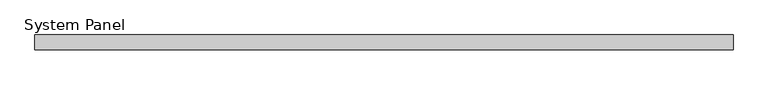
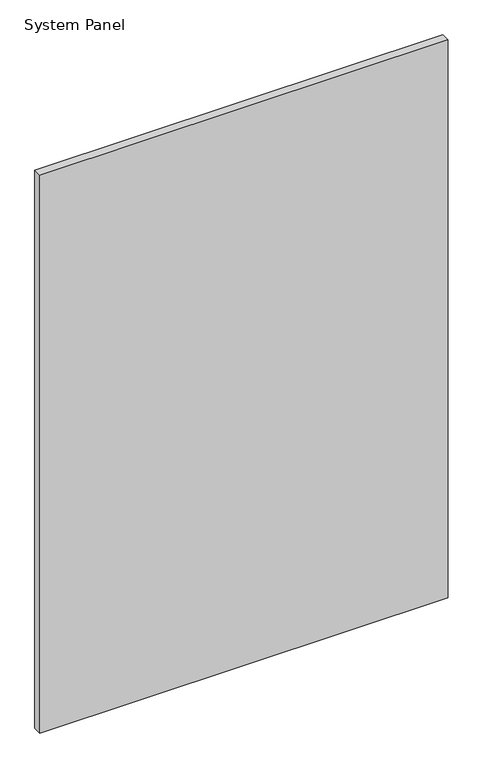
"""IFC4 building model written with IfcOpenShell, lengths in millimetres: plate geometry, System Panel : Panel_Glazed_Generic Showcase_30mm."""

import ifcopenshell
import ifcopenshell.guid

model = None  # the IFC model being written
_history = None  # IfcOwnerHistory: only IFC2X3 demands one
_inside = {}  # id of a spatial element -> (the spatial element, [elements in it])
_under = {}  # id of a project, library or spatial element -> (it, [spatial elements below it])
_declared = {}  # id of a project -> (the project, [libraries it declares])
_typed = {}  # id of a type object -> (the type object, [elements of that type])
_made_of = {}  # id of a material, layer set ... -> (it, [elements and type objects made of it])


def new_model(schema):
    """Start an empty IFC model of exactly this schema.

    Asked for "IFC4X3", IfcOpenShell would pick the latest addendum, in which some entities
    have other attributes; the version numbers below select the first issue.
    IFC2X3 requires an IfcOwnerHistory on every rooted entity: one is made here for all.
    """
    global model, _history
    if schema == "IFC4X3":
        model = ifcopenshell.file(schema_version=(4, 3, 0, 0))
    else:
        model = ifcopenshell.file(schema=schema)
    _inside.clear()
    _under.clear()
    _declared.clear()
    _typed.clear()
    _made_of.clear()
    _history = None
    if model.schema == "IFC2X3":
        org = make("IfcOrganization", Name="unknown")
        user = make(
            "IfcPersonAndOrganization",
            ThePerson=make("IfcPerson", FamilyName="unknown"),
            TheOrganization=org,
        )
        app = make(
            "IfcApplication",
            ApplicationDeveloper=org,
            Version="unknown",
            ApplicationFullName="unknown",
            ApplicationIdentifier="unknown",
        )
        _history = make(
            "IfcOwnerHistory",
            OwningUser=user,
            OwningApplication=app,
            ChangeAction="ADDED",
            CreationDate=0,
        )
    return model


def make(cls, **values):
    """One entity of the class cls with the attributes given. An attribute that is None is left unset."""
    return model.create_entity(
        cls, **{name: value for name, value in values.items() if value is not None}
    )


def rooted(cls, **values):
    """An entity with a GlobalId (a new one), such as an element, a storey or a relation."""
    return make(cls, GlobalId=ifcopenshell.guid.new(), OwnerHistory=_history, **values)


def si_unit(unit_type, name, prefix=None):
    """IfcSIUnit, for example si_unit("LENGTHUNIT", "METRE", prefix="MILLI")."""
    return make("IfcSIUnit", UnitType=unit_type, Prefix=prefix, Name=name)


def assignment(units):
    """IfcUnitAssignment: the units of a project."""
    return None if units is None else make("IfcUnitAssignment", Units=units)


def point(xyz):
    """IfcCartesianPoint."""
    return None if xyz is None else make("IfcCartesianPoint", Coordinates=xyz)


def direction(xyz):
    """IfcDirection."""
    return None if xyz is None else make("IfcDirection", DirectionRatios=xyz)


def frame(location, z_axis=None, x_axis=None):
    """IfcAxis2Placement3D, a coordinate frame: its origin and axes. An axis left out is left unset."""
    return make(
        "IfcAxis2Placement3D",
        Location=point(location),
        Axis=direction(z_axis),
        RefDirection=direction(x_axis),
    )


def origin():
    """The frame at (0, 0, 0) with its axes left unset."""
    return frame((0.0, 0.0, 0.0))


def origin_with_axes():
    """The frame at (0, 0, 0) with the z axis (0, 0, 1) and the x axis (1, 0, 0) written out."""
    return frame((0.0, 0.0, 0.0), z_axis=(0.0, 0.0, 1.0), x_axis=(1.0, 0.0, 0.0))


def place(relative_to, where):
    """IfcLocalPlacement: puts the frame where relative to a parent placement (None: the world)."""
    return make(
        "IfcLocalPlacement", PlacementRelTo=relative_to, RelativePlacement=where
    )


def context(
    kind, dimensions, precision=None, world=None, true_north=None, identifier=None
):
    """IfcGeometricRepresentationContext, for example the 3D "Model" context."""
    return make(
        "IfcGeometricRepresentationContext",
        ContextIdentifier=identifier,
        ContextType=kind,
        CoordinateSpaceDimension=dimensions,
        Precision=precision,
        WorldCoordinateSystem=world,
        TrueNorth=true_north,
    )


def project(units=None, contexts=None):
    """IfcProject with its units and contexts."""
    return rooted(
        "IfcProject",
        Name="project",
        RepresentationContexts=contexts,
        UnitsInContext=assignment(units),
    )


def spatial(cls, under=None, at=None, **own):
    """A site, building, storey or space (cls), placed at a placement, below another one or the project."""
    s = rooted(cls, ObjectPlacement=at, **own)
    if under is not None:
        _under.setdefault(under.id(), (under, []))[1].append(s)
    return s


def polyline(points):
    """IfcPolyline through the points."""
    return make("IfcPolyline", Points=[point(p) for p in points])


def outline(outer, holes=None, kind="AREA"):
    """IfcArbitraryClosedProfileDef: a profile drawn as a closed curve; with holes, ...WithVoids."""
    if holes is None:
        return make("IfcArbitraryClosedProfileDef", ProfileType=kind, OuterCurve=outer)
    return make(
        "IfcArbitraryProfileDefWithVoids",
        ProfileType=kind,
        OuterCurve=outer,
        InnerCurves=holes,
    )


def extrude(swept, where, along, depth):
    """IfcExtrudedAreaSolid: the profile swept, set in the frame where, extruded along a direction by depth."""
    return make(
        "IfcExtrudedAreaSolid",
        SweptArea=swept,
        Position=where,
        ExtrudedDirection=direction(along),
        Depth=depth,
    )


def shape(context_of_items, identifier, shape_type, items):
    """IfcShapeRepresentation: the items that make up one representation, for example the "Body"."""
    return make(
        "IfcShapeRepresentation",
        ContextOfItems=context_of_items,
        RepresentationIdentifier=identifier,
        RepresentationType=shape_type,
        Items=items,
    )


def source(mapping_origin, context_of_items, identifier, shape_type, items):
    """IfcRepresentationMap: a shape defined once, which mapped items show again and again."""
    return make(
        "IfcRepresentationMap",
        MappingOrigin=mapping_origin,
        MappedRepresentation=shape(context_of_items, identifier, shape_type, items),
    )


def transform(
    local_origin,
    x_axis=None,
    y_axis=None,
    z_axis=None,
    scale=None,
    scale2=None,
    scale3=None,
    uniform=True,
):
    """IfcCartesianTransformationOperator3D, or its non-uniform kind. x_axis, y_axis, z_axis: its Axis1, 2, 3."""
    if uniform:
        return make(
            "IfcCartesianTransformationOperator3D",
            Axis1=direction(x_axis),
            Axis2=direction(y_axis),
            LocalOrigin=point(local_origin),
            Scale=scale,
            Axis3=direction(z_axis),
        )
    return make(
        "IfcCartesianTransformationOperator3DnonUniform",
        Axis1=direction(x_axis),
        Axis2=direction(y_axis),
        LocalOrigin=point(local_origin),
        Scale=scale,
        Axis3=direction(z_axis),
        Scale2=scale2,
        Scale3=scale3,
    )


def mapped(mapping_source, mapping_target):
    """IfcMappedItem: shows the shape of a source again, moved by a transform."""
    return make(
        "IfcMappedItem", MappingSource=mapping_source, MappingTarget=mapping_target
    )


def made_of(thing, what):
    """Note that an element or type object is made of a material, layer set ...; save() writes the relation."""
    if what is not None:
        _made_of.setdefault(what.id(), (what, []))[1].append(thing)
    return thing


def element(
    cls,
    number,
    at=None,
    inside=None,
    cuts=None,
    type_object=None,
    material=None,
    context=None,
    identifier="Body",
    shape_type=None,
    held_by="IfcProductDefinitionShape",
    body=None,
    shapes=None,
    **own,
):
    """One element of the class cls, such as IfcWall. Its Tag is "e" and its number.

    at: its placement. inside: the storey or other place that contains it. cuts: it is an
    opening in that element (IfcRelVoidsElement). A single representation is given by context,
    identifier, shape_type and body (its items); several are given by shapes. held_by: the class
    of the entity that holds the representations. save() writes the other relations.
    """
    e = rooted(cls, Tag="e%d" % number, ObjectPlacement=at, **own)
    if body is not None:
        shapes = [shape(context, identifier, shape_type, body)]
    if shapes is not None:
        e.Representation = make(held_by, Representations=shapes)
    if inside is not None:
        _inside.setdefault(inside.id(), (inside, []))[1].append(e)
    if cuts is not None:
        rooted(
            "IfcRelVoidsElement", RelatingBuildingElement=cuts, RelatedOpeningElement=e
        )
    if type_object is not None:
        _typed.setdefault(type_object.id(), (type_object, []))[1].append(e)
    return made_of(e, material)


def aggregate(whole, parts):
    """IfcRelAggregates: a whole, such as a stair, and the parts it consists of."""
    return rooted("IfcRelAggregates", RelatingObject=whole, RelatedObjects=parts)


def save(model, path):
    """Write the relations noted so far, then the file.

    IfcRelAggregates (storeys below a building ...), IfcRelContainedInSpatialStructure (elements
    in a storey), IfcRelDefinesByType, IfcRelAssociatesMaterial and IfcRelDeclares: one each for
    every whole, place, type object, material and project.
    """
    for whole, parts in _under.values():
        aggregate(whole, parts)
    for where, things in _inside.values():
        rooted(
            "IfcRelContainedInSpatialStructure",
            RelatedElements=things,
            RelatingStructure=where,
        )
    for kind, things in _typed.values():
        rooted("IfcRelDefinesByType", RelatedObjects=things, RelatingType=kind)
    for what, things in _made_of.values():
        rooted("IfcRelAssociatesMaterial", RelatedObjects=things, RelatingMaterial=what)
    for by, libraries in _declared.values():
        rooted("IfcRelDeclares", RelatingContext=by, RelatedDefinitions=libraries)
    model.write(path)


def system_panel_5fdebb05(model_context):
    return source(origin(), model_context, "Body", "SweptSolid", [
        extrude(outline(polyline([(709.726735, -30.0), (-709.726735, -30.0), (-709.726735, 0.0), (709.726735, 0.0), (709.726735, -30.0)])), origin_with_axes(), (0.0, 0.0, 1.0), 2050.0),
    ])


if __name__ == "__main__":
    model = new_model("IFC4")
    model_context = context("Model", 3, world=origin())
    ifc_project = project(units=[si_unit("LENGTHUNIT", "METRE", prefix="MILLI")], contexts=[model_context])
    site = spatial("IfcSite", under=ifc_project)
    building = spatial("IfcBuilding", under=site)
    placement = place(None, origin())
    system_panel_shape = system_panel_5fdebb05(model_context)
    element("IfcPlate", 1, ObjectType="System Panel : Panel_Glazed_Generic Showcase_30mm", at=placement, inside=building, context=model_context, shape_type="MappedRepresentation", body=[
        mapped(system_panel_shape, transform((0.0, 0.0, 0.0), x_axis=(1.0, 0.0, 0.0), y_axis=(0.0, 1.0, 0.0), z_axis=(0.0, 0.0, 1.0))),
    ])
    save(model, "model.ifc")
